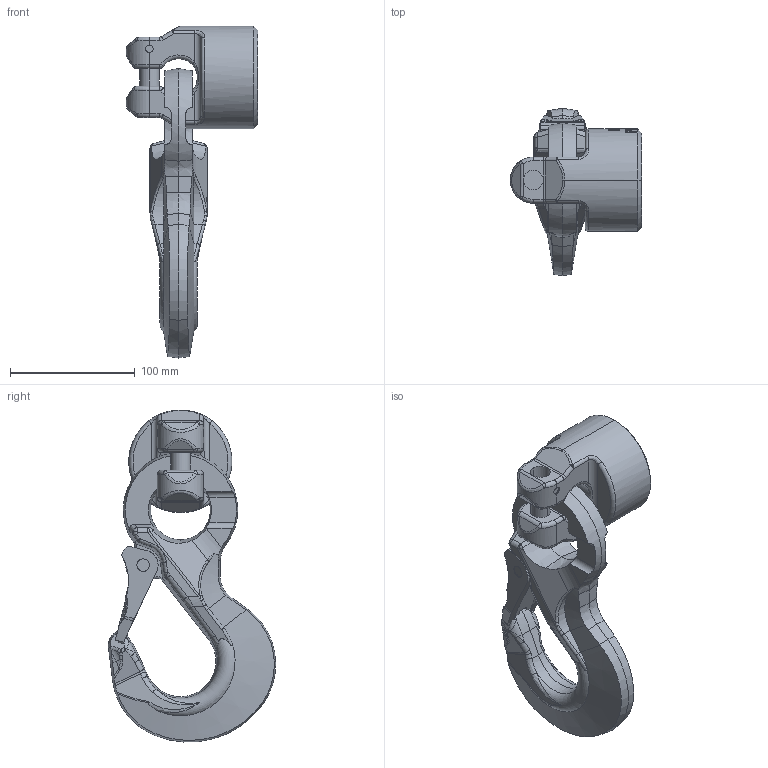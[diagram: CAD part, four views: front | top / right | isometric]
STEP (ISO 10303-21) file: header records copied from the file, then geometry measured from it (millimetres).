
FILE_DESCRIPTION((''),'2;1');
FILE_NAME('001-M31395-P-50_ASM','2018-04-26T',('Anja.Joas'),(''),'PRO/ENGINEER BY PARAMETRIC TECHNOLOGY CORPORATION, 2011490','PRO/ENGINEER BY PARAMETRIC TECHNOLOGY CORPORATION, 2011490','');
FILE_SCHEMA(('CONFIG_CONTROL_DESIGN'));
Length unit declared in the file: millimetre
Products named in the file (5): 001-M31395-P-20_AF0; 001-M31479-001; 001-M31480-001; 001-M31479-002_ASM; 001-M31395-P-50_ASM
Assembly tree (4 placements, depth 3):
  001-M31395-P-50_ASM
    001-M31395-P-20_AF0
    001-M31479-002_ASM
      001-M31479-001
      001-M31480-001
Bounding box: 105.5 x 134.49 x 266.63 mm (x, y, z)
Volume: 719491.7 mm3; surface area: 97696 mm2
Topology: 3 solids, 3 shells, 708 faces, 1878 edges, 1176 vertices
Faces by surface type: plane 376, cylinder 128, bspline 88, sphere 42, cone 38, torus 36
Entity records: 26573 total; most frequent: CARTESIAN_POINT 10163, ORIENTED_EDGE 3700, DIRECTION 2995, EDGE_CURVE 1850, VERTEX_POINT 1176, AXIS2_PLACEMENT_3D 1089, VECTOR 817, LINE 817
